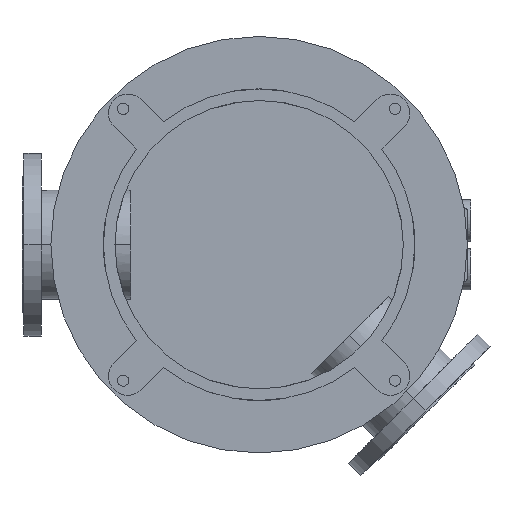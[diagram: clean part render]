
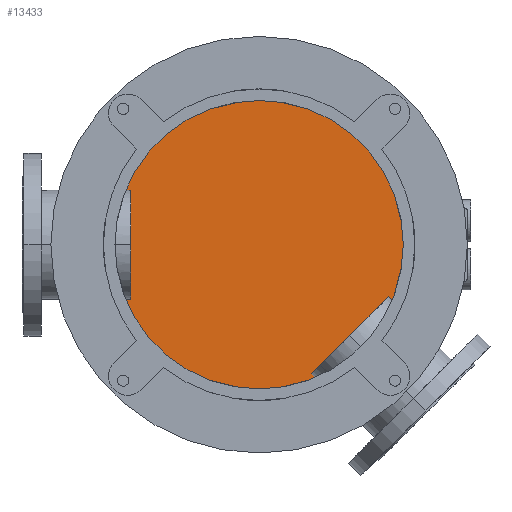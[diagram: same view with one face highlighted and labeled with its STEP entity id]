
A CAD part, front view. The second image highlights one B-rep face of the part: STEP entity #13433.
In plain terms, the highlighted planar face has unit normal (0, -1, 0).
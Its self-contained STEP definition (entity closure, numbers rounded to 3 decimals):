
#2809=CARTESIAN_POINT('',(0.,836.,0.));
#2810=DIRECTION('',(0.,-1.,0.));
#2811=DIRECTION('',(0.,0.,1.));
#2812=AXIS2_PLACEMENT_3D('',#2809,#2810,#2811);
#2936=CARTESIAN_POINT('',(0.,836.,0.));
#2937=DIRECTION('',(0.,-1.,0.));
#2938=DIRECTION('',(0.,0.,-1.));
#2939=AXIS2_PLACEMENT_3D('',#2936,#2937,#2938);
#8586=CARTESIAN_POINT('',(0.,836.,240.));
#8587=CARTESIAN_POINT('',(0.,836.,-240.));
#8588=VERTEX_POINT('',#8586);
#8589=VERTEX_POINT('',#8587);
#13423=CARTESIAN_POINT('',(0.,836.,0.));
#13424=DIRECTION('',(0.,1.,0.));
#13425=DIRECTION('',(0.,0.,-1.));
#13426=AXIS2_PLACEMENT_3D('',#13423,#13424,#13425);
#13427=PLANE('',#13426);
#13428=ORIENTED_EDGE('',*,*,#13407,.F.);
#13430=ORIENTED_EDGE('',*,*,#13429,.F.);
#13431=EDGE_LOOP('',(#13428,#13430));
#13432=FACE_OUTER_BOUND('',#13431,.F.);
#13433=ADVANCED_FACE('',(#13432),#13427,.F.);
#2813=CIRCLE('',#2812,240.);
#2940=CIRCLE('',#2939,240.);
#13407=EDGE_CURVE('',#8588,#8589,#2813,.T.);
#13429=EDGE_CURVE('',#8589,#8588,#2940,.T.);
